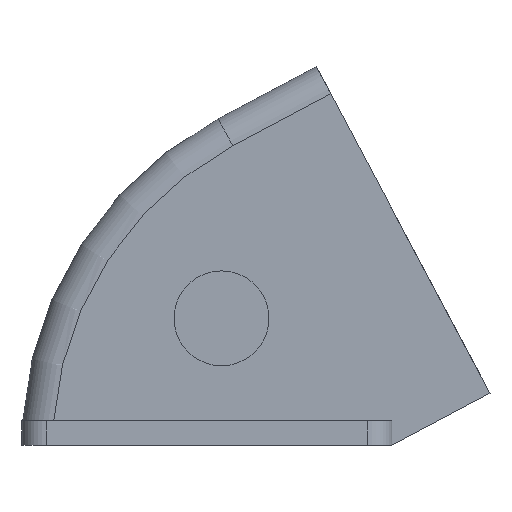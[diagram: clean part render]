
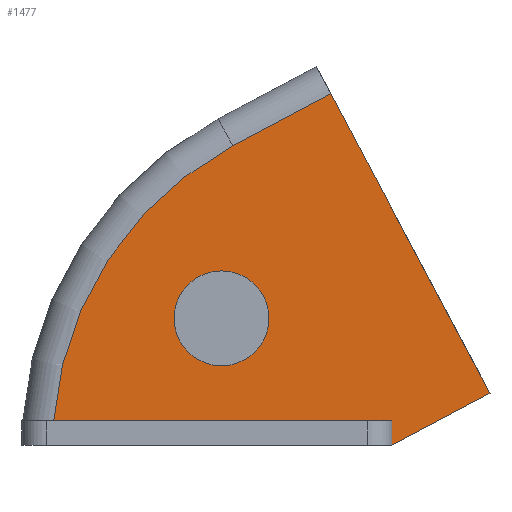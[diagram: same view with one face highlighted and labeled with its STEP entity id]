
A CAD part, left-side view. The second image highlights one B-rep face of the part: STEP entity #1477.
In plain terms, the highlighted planar face has unit normal (-1, 0, 0).
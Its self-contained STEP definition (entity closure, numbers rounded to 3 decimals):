
#51=LINE('',#2163,#170);
#118=LINE('',#2701,#237);
#120=LINE('',#2707,#239);
#125=LINE('',#2719,#244);
#137=LINE('',#2750,#256);
#170=VECTOR('',#1746,55.);
#237=VECTOR('',#1907,18.);
#239=VECTOR('',#1913,18.);
#244=VECTOR('',#1926,4.);
#256=VECTOR('',#1950,54.854);
#304=PLANE('',#1615);
#342=FACE_BOUND('',#527,.T.);
#413=FACE_OUTER_BOUND('',#526,.T.);
#526=EDGE_LOOP('',(#1253,#1254,#1255,#1256,#1257,#1258));
#527=EDGE_LOOP('',(#1259));
#592=CIRCLE('',#1558,7.7);
#615=CIRCLE('',#1614,55.);
#661=VERTEX_POINT('',#2161);
#662=VERTEX_POINT('',#2162);
#678=VERTEX_POINT('',#2201);
#742=VERTEX_POINT('',#2700);
#744=VERTEX_POINT('',#2705);
#747=VERTEX_POINT('',#2718);
#760=VERTEX_POINT('',#2749);
#809=EDGE_CURVE('',#661,#662,#51,.T.);
#826=EDGE_CURVE('',#678,#678,#592,.T.);
#906=EDGE_CURVE('',#742,#661,#118,.T.);
#909=EDGE_CURVE('',#744,#662,#120,.T.);
#915=EDGE_CURVE('',#742,#747,#125,.T.);
#931=EDGE_CURVE('',#747,#760,#137,.T.);
#945=EDGE_CURVE('',#760,#744,#615,.T.);
#1253=ORIENTED_EDGE('',*,*,#931,.F.);
#1254=ORIENTED_EDGE('',*,*,#915,.F.);
#1255=ORIENTED_EDGE('',*,*,#906,.T.);
#1256=ORIENTED_EDGE('',*,*,#809,.T.);
#1257=ORIENTED_EDGE('',*,*,#909,.F.);
#1258=ORIENTED_EDGE('',*,*,#945,.F.);
#1259=ORIENTED_EDGE('',*,*,#826,.T.);
#1477=ADVANCED_FACE('',(#413,#342),#304,.T.);
#1558=AXIS2_PLACEMENT_3D('',#2202,#1788,#1789);
#1614=AXIS2_PLACEMENT_3D('',#2817,#1986,#1987);
#1615=AXIS2_PLACEMENT_3D('',#2818,#1988,#1989);
#1746=DIRECTION('',(0.,0.469,0.883));
#1788=DIRECTION('center_axis',(1.,0.,0.));
#1789=DIRECTION('ref_axis',(0.,0.,-1.));
#1907=DIRECTION('',(0.,-0.883,0.469));
#1913=DIRECTION('',(0.,-0.883,0.469));
#1926=DIRECTION('',(0.,0.,1.));
#1950=DIRECTION('',(0.,1.,0.));
#1986=DIRECTION('center_axis',(1.,0.,0.));
#1987=DIRECTION('ref_axis',(0.,1.,0.));
#1988=DIRECTION('center_axis',(-1.,0.,0.));
#1989=DIRECTION('ref_axis',(0.,0.,1.));
#2161=CARTESIAN_POINT('',(15.662,-45.893,48.75));
#2162=CARTESIAN_POINT('',(15.662,-20.072,97.313));
#2163=CARTESIAN_POINT('',(15.662,-25.941,86.276));
#2201=CARTESIAN_POINT('',(15.662,-2.351,68.609));
#2202=CARTESIAN_POINT('Origin',(15.662,-2.351,60.909));
#2700=CARTESIAN_POINT('',(15.662,-30.,40.3));
#2701=CARTESIAN_POINT('',(15.662,-30.,40.3));
#2705=CARTESIAN_POINT('',(15.662,-4.179,88.862));
#2707=CARTESIAN_POINT('',(15.662,-4.179,88.862));
#2718=CARTESIAN_POINT('',(15.662,-30.,44.3));
#2719=CARTESIAN_POINT('',(15.662,-30.,64.581));
#2749=CARTESIAN_POINT('',(15.662,24.854,44.3));
#2750=CARTESIAN_POINT('',(15.662,12.5,44.3));
#2817=CARTESIAN_POINT('Origin',(15.662,-30.,40.3));
#2818=CARTESIAN_POINT('Origin',(15.662,25.,40.3));
